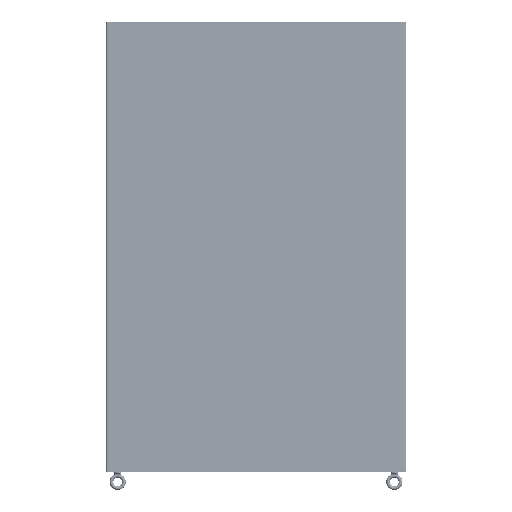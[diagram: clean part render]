
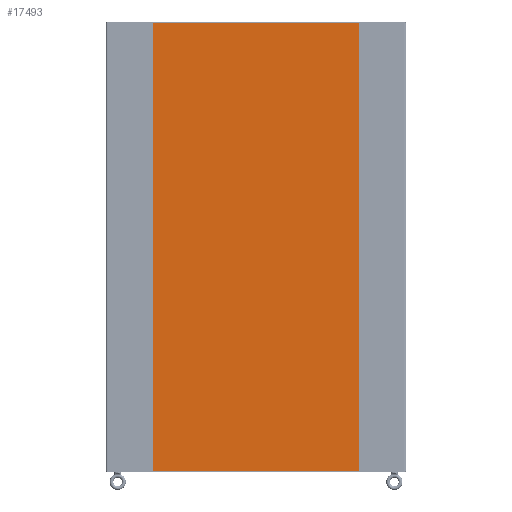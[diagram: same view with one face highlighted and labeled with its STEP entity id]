
A CAD part, left-side view. The second image highlights one B-rep face of the part: STEP entity #17493.
In plain terms, the highlighted planar face has unit normal (-1, 0, 0) as drawn and (0, 0, -1) by its records, which use the part's own axes.
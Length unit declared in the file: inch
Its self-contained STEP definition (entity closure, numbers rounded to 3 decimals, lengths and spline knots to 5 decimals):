
#17074=CARTESIAN_POINT('',(16.4375,35.8335,-0.104));
#17075=DIRECTION('',(0.,0.,-1.));
#17076=DIRECTION('',(0.,1.,0.));
#17077=AXIS2_PLACEMENT_3D('',#17074,#17075,#17076);
#17082=DIRECTION('',(-1.,0.,0.));
#17083=VECTOR('',#17082,32.875);
#17084=CARTESIAN_POINT('',(16.4375,35.896,-0.104));
#17085=LINE('',#17084,#17083);
#17089=CARTESIAN_POINT('',(-16.4375,35.8335,-0.104));
#17090=DIRECTION('',(0.,0.,-1.));
#17091=DIRECTION('',(-1.,0.,0.));
#17092=AXIS2_PLACEMENT_3D('',#17089,#17090,#17091);
#17097=DIRECTION('',(0.,-1.,0.));
#17098=VECTOR('',#17097,71.667);
#17099=CARTESIAN_POINT('',(-16.5,35.8335,-0.104));
#17100=LINE('',#17099,#17098);
#17104=CARTESIAN_POINT('',(-16.4375,-35.8335,-0.104));
#17105=DIRECTION('',(0.,0.,-1.));
#17106=DIRECTION('',(0.,-1.,0.));
#17107=AXIS2_PLACEMENT_3D('',#17104,#17105,#17106);
#17112=DIRECTION('',(1.,0.,0.));
#17113=VECTOR('',#17112,32.875);
#17114=CARTESIAN_POINT('',(-16.4375,-35.896,-0.104));
#17115=LINE('',#17114,#17113);
#17119=CARTESIAN_POINT('',(16.4375,-35.8335,-0.104));
#17120=DIRECTION('',(0.,0.,-1.));
#17121=DIRECTION('',(1.,0.,0.));
#17122=AXIS2_PLACEMENT_3D('',#17119,#17120,#17121);
#17127=DIRECTION('',(0.,1.,0.));
#17128=VECTOR('',#17127,71.667);
#17129=CARTESIAN_POINT('',(16.5,-35.8335,-0.104));
#17130=LINE('',#17129,#17128);
#17258=CARTESIAN_POINT('',(16.4375,35.896,-0.104));
#17259=VERTEX_POINT('',#17258);
#17260=CARTESIAN_POINT('',(16.5,35.8335,-0.104));
#17261=VERTEX_POINT('',#17260);
#17266=CARTESIAN_POINT('',(-16.5,35.8335,-0.104));
#17267=VERTEX_POINT('',#17266);
#17268=CARTESIAN_POINT('',(-16.4375,35.896,-0.104));
#17269=VERTEX_POINT('',#17268);
#17274=CARTESIAN_POINT('',(-16.4375,-35.896,-0.104));
#17275=VERTEX_POINT('',#17274);
#17276=CARTESIAN_POINT('',(-16.5,-35.8335,-0.104));
#17277=VERTEX_POINT('',#17276);
#17282=CARTESIAN_POINT('',(16.5,-35.8335,-0.104));
#17283=VERTEX_POINT('',#17282);
#17284=CARTESIAN_POINT('',(16.4375,-35.896,-0.104));
#17285=VERTEX_POINT('',#17284);
#17478=CARTESIAN_POINT('',(0.,0.,-0.104));
#17479=DIRECTION('',(0.,0.,1.));
#17480=DIRECTION('',(1.,0.,0.));
#17481=AXIS2_PLACEMENT_3D('',#17478,#17479,#17480);
#17482=PLANE('',#17481);
#17483=ORIENTED_EDGE('',*,*,#17374,.F.);
#17484=ORIENTED_EDGE('',*,*,#17390,.T.);
#17485=ORIENTED_EDGE('',*,*,#17403,.F.);
#17486=ORIENTED_EDGE('',*,*,#17418,.T.);
#17487=ORIENTED_EDGE('',*,*,#17431,.F.);
#17488=ORIENTED_EDGE('',*,*,#17446,.T.);
#17489=ORIENTED_EDGE('',*,*,#17459,.F.);
#17490=ORIENTED_EDGE('',*,*,#17471,.T.);
#17491=EDGE_LOOP('',(#17483,#17484,#17485,#17486,#17487,#17488,#17489,#17490));
#17492=FACE_OUTER_BOUND('',#17491,.F.);
#17078=CIRCLE('',#17077,0.0625);
#17093=CIRCLE('',#17092,0.0625);
#17108=CIRCLE('',#17107,0.0625);
#17123=CIRCLE('',#17122,0.0625);
#17374=EDGE_CURVE('',#17259,#17261,#17078,.T.);
#17390=EDGE_CURVE('',#17259,#17269,#17085,.T.);
#17403=EDGE_CURVE('',#17267,#17269,#17093,.T.);
#17418=EDGE_CURVE('',#17267,#17277,#17100,.T.);
#17431=EDGE_CURVE('',#17275,#17277,#17108,.T.);
#17446=EDGE_CURVE('',#17275,#17285,#17115,.T.);
#17459=EDGE_CURVE('',#17283,#17285,#17123,.T.);
#17471=EDGE_CURVE('',#17283,#17261,#17130,.T.);
#17493=ADVANCED_FACE('',(#17492),#17482,.F.);
